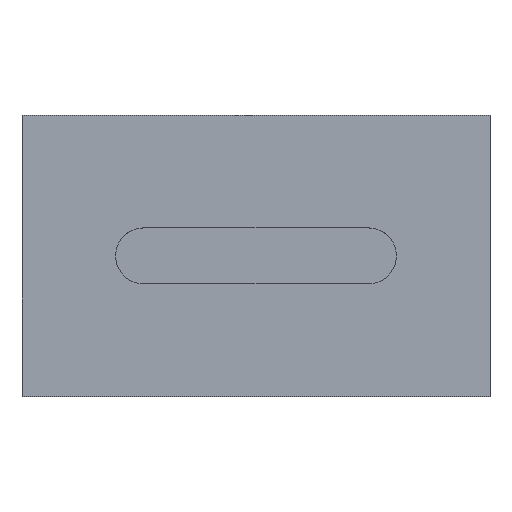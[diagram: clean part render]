
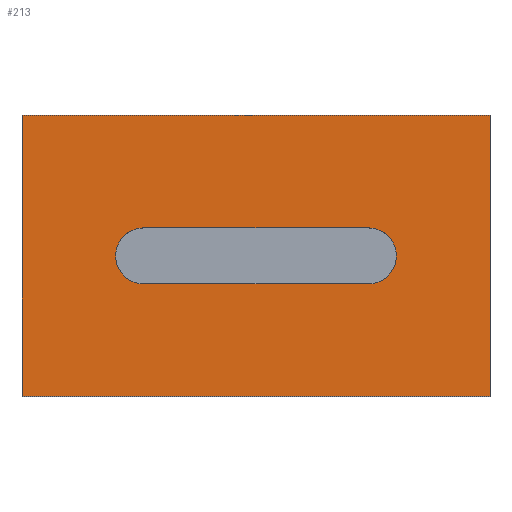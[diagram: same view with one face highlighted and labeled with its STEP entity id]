
A CAD part, top view. The second image highlights one B-rep face of the part: STEP entity #213.
In plain terms, the highlighted planar face has unit normal (0, 0, 1).
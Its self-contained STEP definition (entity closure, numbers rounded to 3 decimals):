
#24 = VERTEX_POINT('',#25);
#25 = CARTESIAN_POINT('',(-50.,-30.,15.));
#32 = PLANE('',#33);
#33 = AXIS2_PLACEMENT_3D('',#34,#35,#36);
#34 = CARTESIAN_POINT('',(-50.,-30.,-15.));
#35 = DIRECTION('',(1.,0.,0.));
#36 = DIRECTION('',(0.,0.,1.));
#44 = PLANE('',#45);
#45 = AXIS2_PLACEMENT_3D('',#46,#47,#48);
#46 = CARTESIAN_POINT('',(-50.,-30.,-15.));
#47 = DIRECTION('',(0.,1.,0.));
#48 = DIRECTION('',(0.,0.,1.));
#85 = VERTEX_POINT('',#86);
#86 = CARTESIAN_POINT('',(-50.,30.,15.));
#100 = PLANE('',#101);
#101 = AXIS2_PLACEMENT_3D('',#102,#103,#104);
#102 = CARTESIAN_POINT('',(-50.,30.,-15.));
#103 = DIRECTION('',(0.,1.,0.));
#104 = DIRECTION('',(0.,0.,1.));
#112 = EDGE_CURVE('',#24,#85,#113,.T.);
#113 = SURFACE_CURVE('',#114,(#118,#125),.PCURVE_S1.);
#114 = LINE('',#115,#116);
#115 = CARTESIAN_POINT('',(-50.,-30.,15.));
#116 = VECTOR('',#117,1.);
#117 = DIRECTION('',(0.,1.,0.));
#118 = PCURVE('',#32,#119);
#119 = DEFINITIONAL_REPRESENTATION('',(#120),#124);
#120 = LINE('',#121,#122);
#121 = CARTESIAN_POINT('',(30.,0.));
#122 = VECTOR('',#123,1.);
#123 = DIRECTION('',(0.,-1.));
#124 = ( GEOMETRIC_REPRESENTATION_CONTEXT(2) 
PARAMETRIC_REPRESENTATION_CONTEXT() REPRESENTATION_CONTEXT('2D SPACE',''
  ) );
#125 = PCURVE('',#126,#131);
#126 = PLANE('',#127);
#127 = AXIS2_PLACEMENT_3D('',#128,#129,#130);
#128 = CARTESIAN_POINT('',(-50.,-30.,15.));
#129 = DIRECTION('',(0.,0.,1.));
#130 = DIRECTION('',(1.,0.,0.));
#131 = DEFINITIONAL_REPRESENTATION('',(#132),#136);
#132 = LINE('',#133,#134);
#133 = CARTESIAN_POINT('',(0.,0.));
#134 = VECTOR('',#135,1.);
#135 = DIRECTION('',(0.,1.));
#136 = ( GEOMETRIC_REPRESENTATION_CONTEXT(2) 
PARAMETRIC_REPRESENTATION_CONTEXT() REPRESENTATION_CONTEXT('2D SPACE',''
  ) );
#165 = EDGE_CURVE('',#24,#166,#168,.T.);
#166 = VERTEX_POINT('',#167);
#167 = CARTESIAN_POINT('',(50.,-30.,15.));
#168 = SURFACE_CURVE('',#169,(#173,#180),.PCURVE_S1.);
#169 = LINE('',#170,#171);
#170 = CARTESIAN_POINT('',(-50.,-30.,15.));
#171 = VECTOR('',#172,1.);
#172 = DIRECTION('',(1.,0.,0.));
#173 = PCURVE('',#44,#174);
#174 = DEFINITIONAL_REPRESENTATION('',(#175),#179);
#175 = LINE('',#176,#177);
#176 = CARTESIAN_POINT('',(30.,0.));
#177 = VECTOR('',#178,1.);
#178 = DIRECTION('',(0.,1.));
#179 = ( GEOMETRIC_REPRESENTATION_CONTEXT(2) 
PARAMETRIC_REPRESENTATION_CONTEXT() REPRESENTATION_CONTEXT('2D SPACE',''
  ) );
#180 = PCURVE('',#126,#181);
#181 = DEFINITIONAL_REPRESENTATION('',(#182),#186);
#182 = LINE('',#183,#184);
#183 = CARTESIAN_POINT('',(0.,0.));
#184 = VECTOR('',#185,1.);
#185 = DIRECTION('',(1.,0.));
#186 = ( GEOMETRIC_REPRESENTATION_CONTEXT(2) 
PARAMETRIC_REPRESENTATION_CONTEXT() REPRESENTATION_CONTEXT('2D SPACE',''
  ) );
#202 = PLANE('',#203);
#203 = AXIS2_PLACEMENT_3D('',#204,#205,#206);
#204 = CARTESIAN_POINT('',(50.,-30.,-15.));
#205 = DIRECTION('',(1.,0.,0.));
#206 = DIRECTION('',(0.,0.,1.));
#213 = ADVANCED_FACE('',(#214,#262),#126,.T.);
#214 = FACE_BOUND('',#215,.T.);
#215 = EDGE_LOOP('',(#216,#217,#218,#241));
#216 = ORIENTED_EDGE('',*,*,#112,.F.);
#217 = ORIENTED_EDGE('',*,*,#165,.T.);
#218 = ORIENTED_EDGE('',*,*,#219,.T.);
#219 = EDGE_CURVE('',#166,#220,#222,.T.);
#220 = VERTEX_POINT('',#221);
#221 = CARTESIAN_POINT('',(50.,30.,15.));
#222 = SURFACE_CURVE('',#223,(#227,#234),.PCURVE_S1.);
#223 = LINE('',#224,#225);
#224 = CARTESIAN_POINT('',(50.,-30.,15.));
#225 = VECTOR('',#226,1.);
#226 = DIRECTION('',(0.,1.,0.));
#227 = PCURVE('',#126,#228);
#228 = DEFINITIONAL_REPRESENTATION('',(#229),#233);
#229 = LINE('',#230,#231);
#230 = CARTESIAN_POINT('',(100.,0.));
#231 = VECTOR('',#232,1.);
#232 = DIRECTION('',(0.,1.));
#233 = ( GEOMETRIC_REPRESENTATION_CONTEXT(2) 
PARAMETRIC_REPRESENTATION_CONTEXT() REPRESENTATION_CONTEXT('2D SPACE',''
  ) );
#234 = PCURVE('',#202,#235);
#235 = DEFINITIONAL_REPRESENTATION('',(#236),#240);
#236 = LINE('',#237,#238);
#237 = CARTESIAN_POINT('',(30.,0.));
#238 = VECTOR('',#239,1.);
#239 = DIRECTION('',(0.,-1.));
#240 = ( GEOMETRIC_REPRESENTATION_CONTEXT(2) 
PARAMETRIC_REPRESENTATION_CONTEXT() REPRESENTATION_CONTEXT('2D SPACE',''
  ) );
#241 = ORIENTED_EDGE('',*,*,#242,.F.);
#242 = EDGE_CURVE('',#85,#220,#243,.T.);
#243 = SURFACE_CURVE('',#244,(#248,#255),.PCURVE_S1.);
#244 = LINE('',#245,#246);
#245 = CARTESIAN_POINT('',(-50.,30.,15.));
#246 = VECTOR('',#247,1.);
#247 = DIRECTION('',(1.,0.,0.));
#248 = PCURVE('',#126,#249);
#249 = DEFINITIONAL_REPRESENTATION('',(#250),#254);
#250 = LINE('',#251,#252);
#251 = CARTESIAN_POINT('',(0.,60.));
#252 = VECTOR('',#253,1.);
#253 = DIRECTION('',(1.,0.));
#254 = ( GEOMETRIC_REPRESENTATION_CONTEXT(2) 
PARAMETRIC_REPRESENTATION_CONTEXT() REPRESENTATION_CONTEXT('2D SPACE',''
  ) );
#255 = PCURVE('',#100,#256);
#256 = DEFINITIONAL_REPRESENTATION('',(#257),#261);
#257 = LINE('',#258,#259);
#258 = CARTESIAN_POINT('',(30.,0.));
#259 = VECTOR('',#260,1.);
#260 = DIRECTION('',(0.,1.));
#261 = ( GEOMETRIC_REPRESENTATION_CONTEXT(2) 
PARAMETRIC_REPRESENTATION_CONTEXT() REPRESENTATION_CONTEXT('2D SPACE',''
  ) );
#262 = FACE_BOUND('',#263,.T.);
#263 = EDGE_LOOP('',(#264,#299,#327,#360));
#264 = ORIENTED_EDGE('',*,*,#265,.T.);
#265 = EDGE_CURVE('',#266,#268,#270,.T.);
#266 = VERTEX_POINT('',#267);
#267 = CARTESIAN_POINT('',(-24.,-6.,15.));
#268 = VERTEX_POINT('',#269);
#269 = CARTESIAN_POINT('',(-24.,6.,15.));
#270 = SURFACE_CURVE('',#271,(#276,#287),.PCURVE_S1.);
#271 = CIRCLE('',#272,6.);
#272 = AXIS2_PLACEMENT_3D('',#273,#274,#275);
#273 = CARTESIAN_POINT('',(-24.,0.,15.));
#274 = DIRECTION('',(0.,-0.,-1.));
#275 = DIRECTION('',(0.,-1.,0.));
#276 = PCURVE('',#126,#277);
#277 = DEFINITIONAL_REPRESENTATION('',(#278),#286);
#278 = ( BOUNDED_CURVE() B_SPLINE_CURVE(2,(#279,#280,#281,#282,#283,#284
,#285),.UNSPECIFIED.,.T.,.F.) B_SPLINE_CURVE_WITH_KNOTS((1,2,2,2,2,1),(
    -2.094,0.,2.094,4.189,6.283,
8.378),.UNSPECIFIED.) CURVE() GEOMETRIC_REPRESENTATION_ITEM() 
RATIONAL_B_SPLINE_CURVE((1.,0.5,1.,0.5,1.,0.5,1.)) REPRESENTATION_ITEM(
  '') );
#279 = CARTESIAN_POINT('',(26.,24.));
#280 = CARTESIAN_POINT('',(15.608,24.));
#281 = CARTESIAN_POINT('',(20.804,33.));
#282 = CARTESIAN_POINT('',(26.,42.));
#283 = CARTESIAN_POINT('',(31.196,33.));
#284 = CARTESIAN_POINT('',(36.392,24.));
#285 = CARTESIAN_POINT('',(26.,24.));
#286 = ( GEOMETRIC_REPRESENTATION_CONTEXT(2) 
PARAMETRIC_REPRESENTATION_CONTEXT() REPRESENTATION_CONTEXT('2D SPACE',''
  ) );
#287 = PCURVE('',#288,#293);
#288 = CYLINDRICAL_SURFACE('',#289,6.);
#289 = AXIS2_PLACEMENT_3D('',#290,#291,#292);
#290 = CARTESIAN_POINT('',(-24.,0.,15.));
#291 = DIRECTION('',(-0.,0.,1.));
#292 = DIRECTION('',(0.,-1.,0.));
#293 = DEFINITIONAL_REPRESENTATION('',(#294),#298);
#294 = LINE('',#295,#296);
#295 = CARTESIAN_POINT('',(-0.,0.));
#296 = VECTOR('',#297,1.);
#297 = DIRECTION('',(-1.,0.));
#298 = ( GEOMETRIC_REPRESENTATION_CONTEXT(2) 
PARAMETRIC_REPRESENTATION_CONTEXT() REPRESENTATION_CONTEXT('2D SPACE',''
  ) );
#299 = ORIENTED_EDGE('',*,*,#300,.T.);
#300 = EDGE_CURVE('',#268,#301,#303,.T.);
#301 = VERTEX_POINT('',#302);
#302 = CARTESIAN_POINT('',(24.,6.,15.));
#303 = SURFACE_CURVE('',#304,(#308,#315),.PCURVE_S1.);
#304 = LINE('',#305,#306);
#305 = CARTESIAN_POINT('',(-24.,6.,15.));
#306 = VECTOR('',#307,1.);
#307 = DIRECTION('',(1.,0.,0.));
#308 = PCURVE('',#126,#309);
#309 = DEFINITIONAL_REPRESENTATION('',(#310),#314);
#310 = LINE('',#311,#312);
#311 = CARTESIAN_POINT('',(26.,36.));
#312 = VECTOR('',#313,1.);
#313 = DIRECTION('',(1.,0.));
#314 = ( GEOMETRIC_REPRESENTATION_CONTEXT(2) 
PARAMETRIC_REPRESENTATION_CONTEXT() REPRESENTATION_CONTEXT('2D SPACE',''
  ) );
#315 = PCURVE('',#316,#321);
#316 = PLANE('',#317);
#317 = AXIS2_PLACEMENT_3D('',#318,#319,#320);
#318 = CARTESIAN_POINT('',(-24.,6.,15.));
#319 = DIRECTION('',(0.,-1.,0.));
#320 = DIRECTION('',(1.,0.,0.));
#321 = DEFINITIONAL_REPRESENTATION('',(#322),#326);
#322 = LINE('',#323,#324);
#323 = CARTESIAN_POINT('',(0.,0.));
#324 = VECTOR('',#325,1.);
#325 = DIRECTION('',(1.,0.));
#326 = ( GEOMETRIC_REPRESENTATION_CONTEXT(2) 
PARAMETRIC_REPRESENTATION_CONTEXT() REPRESENTATION_CONTEXT('2D SPACE',''
  ) );
#327 = ORIENTED_EDGE('',*,*,#328,.T.);
#328 = EDGE_CURVE('',#301,#329,#331,.T.);
#329 = VERTEX_POINT('',#330);
#330 = CARTESIAN_POINT('',(24.,-6.,15.));
#331 = SURFACE_CURVE('',#332,(#337,#348),.PCURVE_S1.);
#332 = CIRCLE('',#333,6.);
#333 = AXIS2_PLACEMENT_3D('',#334,#335,#336);
#334 = CARTESIAN_POINT('',(24.,0.,15.));
#335 = DIRECTION('',(0.,0.,-1.));
#336 = DIRECTION('',(0.,1.,0.));
#337 = PCURVE('',#126,#338);
#338 = DEFINITIONAL_REPRESENTATION('',(#339),#347);
#339 = ( BOUNDED_CURVE() B_SPLINE_CURVE(2,(#340,#341,#342,#343,#344,#345
,#346),.UNSPECIFIED.,.T.,.F.) B_SPLINE_CURVE_WITH_KNOTS((1,2,2,2,2,1),(
    -2.094,0.,2.094,4.189,6.283,
8.378),.UNSPECIFIED.) CURVE() GEOMETRIC_REPRESENTATION_ITEM() 
RATIONAL_B_SPLINE_CURVE((1.,0.5,1.,0.5,1.,0.5,1.)) REPRESENTATION_ITEM(
  '') );
#340 = CARTESIAN_POINT('',(74.,36.));
#341 = CARTESIAN_POINT('',(84.392,36.));
#342 = CARTESIAN_POINT('',(79.196,27.));
#343 = CARTESIAN_POINT('',(74.,18.));
#344 = CARTESIAN_POINT('',(68.804,27.));
#345 = CARTESIAN_POINT('',(63.608,36.));
#346 = CARTESIAN_POINT('',(74.,36.));
#347 = ( GEOMETRIC_REPRESENTATION_CONTEXT(2) 
PARAMETRIC_REPRESENTATION_CONTEXT() REPRESENTATION_CONTEXT('2D SPACE',''
  ) );
#348 = PCURVE('',#349,#354);
#349 = CYLINDRICAL_SURFACE('',#350,6.);
#350 = AXIS2_PLACEMENT_3D('',#351,#352,#353);
#351 = CARTESIAN_POINT('',(24.,0.,15.));
#352 = DIRECTION('',(-0.,-0.,1.));
#353 = DIRECTION('',(0.,1.,0.));
#354 = DEFINITIONAL_REPRESENTATION('',(#355),#359);
#355 = LINE('',#356,#357);
#356 = CARTESIAN_POINT('',(-0.,0.));
#357 = VECTOR('',#358,1.);
#358 = DIRECTION('',(-1.,0.));
#359 = ( GEOMETRIC_REPRESENTATION_CONTEXT(2) 
PARAMETRIC_REPRESENTATION_CONTEXT() REPRESENTATION_CONTEXT('2D SPACE',''
  ) );
#360 = ORIENTED_EDGE('',*,*,#361,.T.);
#361 = EDGE_CURVE('',#329,#266,#362,.T.);
#362 = SURFACE_CURVE('',#363,(#367,#374),.PCURVE_S1.);
#363 = LINE('',#364,#365);
#364 = CARTESIAN_POINT('',(24.,-6.,15.));
#365 = VECTOR('',#366,1.);
#366 = DIRECTION('',(-1.,0.,0.));
#367 = PCURVE('',#126,#368);
#368 = DEFINITIONAL_REPRESENTATION('',(#369),#373);
#369 = LINE('',#370,#371);
#370 = CARTESIAN_POINT('',(74.,24.));
#371 = VECTOR('',#372,1.);
#372 = DIRECTION('',(-1.,0.));
#373 = ( GEOMETRIC_REPRESENTATION_CONTEXT(2) 
PARAMETRIC_REPRESENTATION_CONTEXT() REPRESENTATION_CONTEXT('2D SPACE',''
  ) );
#374 = PCURVE('',#375,#380);
#375 = PLANE('',#376);
#376 = AXIS2_PLACEMENT_3D('',#377,#378,#379);
#377 = CARTESIAN_POINT('',(24.,-6.,15.));
#378 = DIRECTION('',(0.,1.,-0.));
#379 = DIRECTION('',(-1.,0.,0.));
#380 = DEFINITIONAL_REPRESENTATION('',(#381),#385);
#381 = LINE('',#382,#383);
#382 = CARTESIAN_POINT('',(0.,0.));
#383 = VECTOR('',#384,1.);
#384 = DIRECTION('',(1.,0.));
#385 = ( GEOMETRIC_REPRESENTATION_CONTEXT(2) 
PARAMETRIC_REPRESENTATION_CONTEXT() REPRESENTATION_CONTEXT('2D SPACE',''
  ) );
